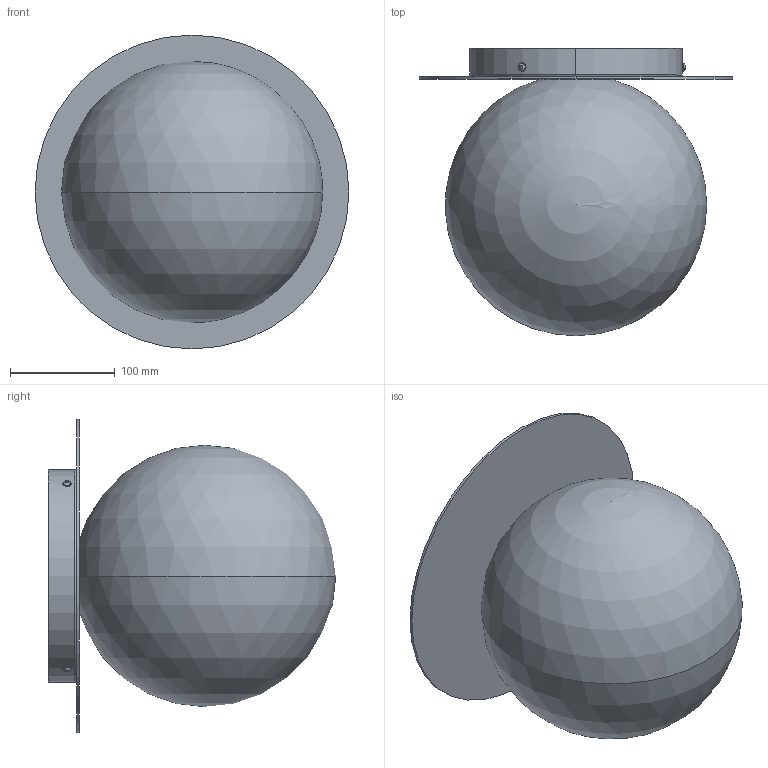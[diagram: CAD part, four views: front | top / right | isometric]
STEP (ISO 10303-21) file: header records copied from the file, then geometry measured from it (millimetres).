
FILE_DESCRIPTION (( 'STEP AP203' ), '1' );
FILE_NAME ('UPKI2501XXXXXXX-PER 3D.STEP', '2026-07-07T16:51:25', ( '' ), ( '' ), 'SwSTEP 2.0', 'SolidWorks 2026', '' );
FILE_SCHEMA (( 'CONFIG_CONTROL_DESIGN' ));
Length unit declared in the file: millimetre
Products named in the file (9): WSCM2C0209-0700-01_WSCM2C0209-0700-01; rondella_M4_Dentellata Interna; WSVAXXX0250BC7XX00; UPKI2501XXXXXXX-PER 3D; WSCM2C0210-1200-00; WSCM2F0031-0100-02; ASSIEME LED CREE1820-HOLDER BENDER & WURTH 637a47509HEKLA-LENTE LEDIL ZORYA FP15072_ZORYA_SC_40_ASSIEME LED V13-HOLDER-LENTE ZORYA; ISO7380_M4_H08; WSJ2S-KUALF50H36-2
Assembly tree (12 placements, depth 3):
  UPKI2501XXXXXXX-PER 3D
    WSCM2C0209-0700-01_WSCM2C0209-0700-01
    WSVAXXX0250BC7XX00
    WSCM2F0031-0100-02
    WSCM2C0210-1200-00
    rondella_M4_Dentellata Interna  x3
    ISO7380_M4_H08  x3
    ASSIEME LED CREE1820-HOLDER BENDER & WURTH 637a47509HEKLA-LENTE LEDIL ZORYA FP15072_ZORYA_SC_40_ASSIEME LED V13-HOLDER-LENTE ZORYA
      WSJ2S-KUALF50H36-2
Bounding box: 300 x 274.8 x 300 mm (x, y, z)
Volume: 1016796.6 mm3; surface area: 681481.7 mm2
Topology: 11 solids, 11 shells, 429 faces, 1074 edges, 670 vertices
Faces by surface type: cylinder 149, bspline 144, plane 94, cone 28, sphere 10, torus 4
Entity records: 10059 total; most frequent: CARTESIAN_POINT 2645, ORIENTED_EDGE 1328, DIRECTION 1276, EDGE_CURVE 664, AXIS2_PLACEMENT_3D 463, VERTEX_POINT 416, LINE 350, VECTOR 350
